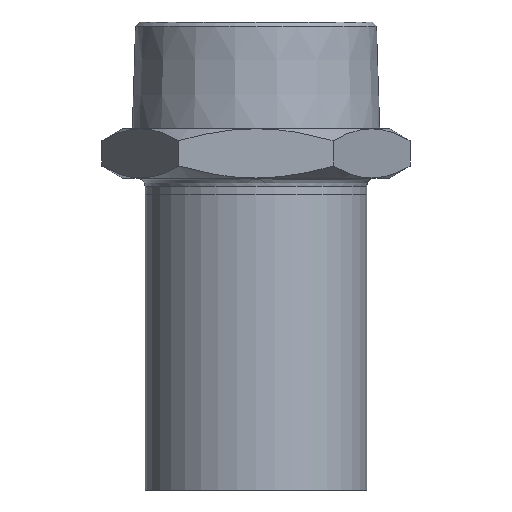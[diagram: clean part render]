
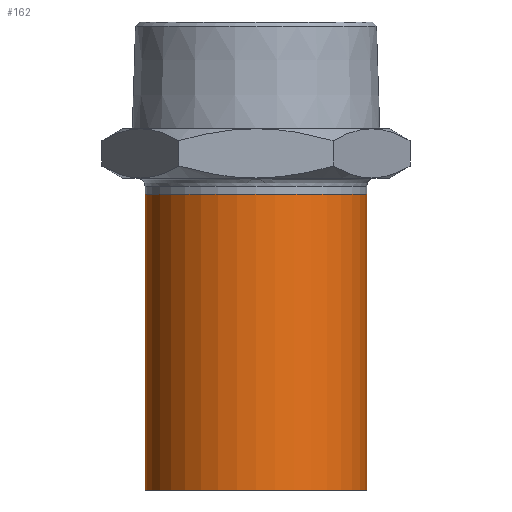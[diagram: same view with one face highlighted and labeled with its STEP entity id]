
A CAD part, front view. The second image highlights one B-rep face of the part: STEP entity #162.
In plain terms, the highlighted cylindrical face has radius 27 mm (diameter 54 mm), a full revolution.
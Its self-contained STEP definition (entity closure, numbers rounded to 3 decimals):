
#135=CARTESIAN_POINT('',(0.0,0.0,0.0));
#136=DIRECTION('',(0.0,0.0,1.0));
#137=DIRECTION('',(-1.0,0.0,0.0));
#138=AXIS2_PLACEMENT_3D('',#135,#136,#137);
#139=CYLINDRICAL_SURFACE('',#138,27.0);
#140=CARTESIAN_POINT('',(27.0,0.,72.0));
#141=VERTEX_POINT('',#140);
#142=CARTESIAN_POINT('',(0.0,0.0,72.0));
#143=DIRECTION('',(0.0,0.0,-1.0));
#144=DIRECTION('',(-1.0,0.0,0.0));
#145=AXIS2_PLACEMENT_3D('',#142,#143,#144);
#146=CIRCLE('',#145,27.0);
#147=EDGE_CURVE('',#141,#141,#146,.T.);
#148=ORIENTED_EDGE('',*,*,#147,.T.);
#149=EDGE_LOOP('',(#148));
#150=FACE_OUTER_BOUND('',#149,.T.);
#151=CARTESIAN_POINT('',(27.0,0.,0.0));
#152=VERTEX_POINT('',#151);
#153=CARTESIAN_POINT('',(0.0,0.0,0.0));
#154=DIRECTION('',(0.0,0.0,-1.0));
#155=DIRECTION('',(-1.0,0.0,0.0));
#156=AXIS2_PLACEMENT_3D('',#153,#154,#155);
#157=CIRCLE('',#156,27.0);
#158=EDGE_CURVE('',#152,#152,#157,.T.);
#159=ORIENTED_EDGE('',*,*,#158,.F.);
#160=EDGE_LOOP('',(#159));
#161=FACE_BOUND('',#160,.T.);
#162=ADVANCED_FACE('',(#150,#161),#139,.T.);
